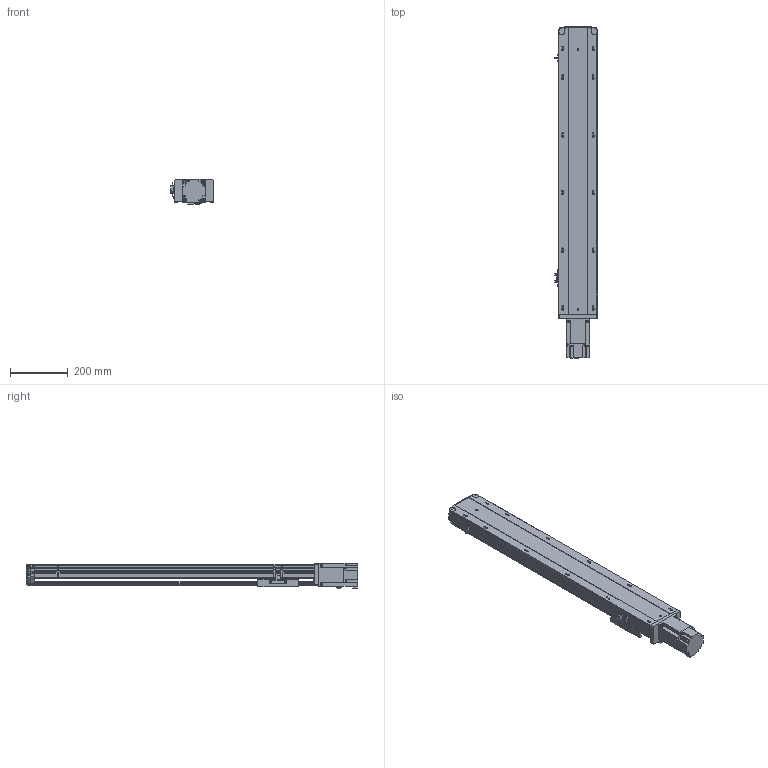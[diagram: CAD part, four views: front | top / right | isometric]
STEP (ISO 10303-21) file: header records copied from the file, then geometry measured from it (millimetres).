
FILE_DESCRIPTION (( 'STEP AP203' ), '1' );
FILE_NAME ('15.STEP', '2020-11-07T02:21:05', ( '' ), ( '' ), 'SwSTEP 2.0', 'SolidWorks 2016', '' );
FILE_SCHEMA (( 'CONFIG_CONTROL_DESIGN' ));
Length unit declared in the file: millimetre
Products named in the file (7): BTH14-BC-HZ; BTH14-BC-菁釱; BTH14-BC-06-T75; BTH14-BC-T75; 15; BTH14-BC-01; BTH14-BC-04
Assembly tree (8 placements, depth 2):
  15
    BTH14-BC-菁釱
    BTH14-BC-01
    BTH14-BC-04  x3
    BTH14-BC-HZ
    BTH14-BC-06-T75
    BTH14-BC-T75
Bounding box: 148.7 x 1150.82 x 88.8 mm (x, y, z)
Volume: 4869529.2 mm3; surface area: 997511.9 mm2
Topology: 12 solids, 12 shells, 1477 faces, 4066 edges, 2621 vertices
Faces by surface type: plane 780, cylinder 380, bspline 194, cone 95, torus 28
Entity records: 52926 total; most frequent: CARTESIAN_POINT 21150, ORIENTED_EDGE 6952, DIRECTION 5764, EDGE_CURVE 3476, VERTEX_POINT 2261, AXIS2_PLACEMENT_3D 1929, LINE 1906, VECTOR 1906
